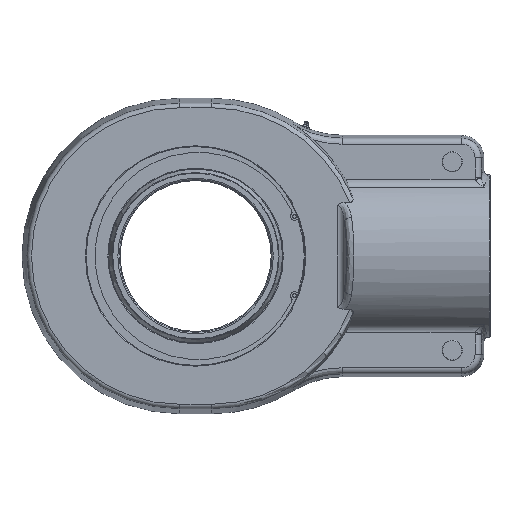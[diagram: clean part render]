
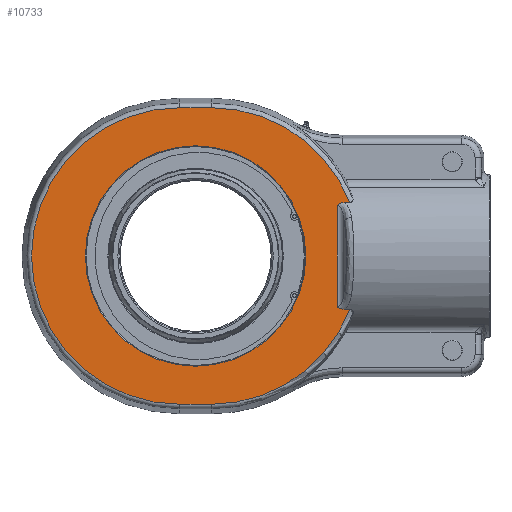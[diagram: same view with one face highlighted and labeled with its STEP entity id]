
A CAD part, left-side view. The second image highlights one B-rep face of the part: STEP entity #10733.
In plain terms, the highlighted planar face has unit normal (-1, 0, 0) as drawn and (0, 0, -1) by its records, which use the part's own axes.
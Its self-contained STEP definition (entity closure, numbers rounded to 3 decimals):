
#4135=CARTESIAN_POINT('',(-70.677,-204.259,-81.0));
#4136=VERTEX_POINT('',#4135);
#4152=CARTESIAN_POINT('',(-70.677,-196.946,-81.));
#4153=VERTEX_POINT('',#4152);
#4154=CARTESIAN_POINT('',(-70.677,-196.946,-81.));
#4155=DIRECTION('',(0.,-1.0,0.));
#4156=VECTOR('',#4155,7.313);
#4157=LINE('',#4154,#4156);
#4158=EDGE_CURVE('',#4153,#4136,#4157,.T.);
#4185=CARTESIAN_POINT('',(70.677,-196.946,-81.));
#4186=VERTEX_POINT('',#4185);
#4203=CARTESIAN_POINT('',(70.677,-204.259,-81.0));
#4204=VERTEX_POINT('',#4203);
#4205=CARTESIAN_POINT('',(70.677,-204.259,-81.0));
#4206=DIRECTION('',(0.0,1.0,0.0));
#4207=VECTOR('',#4206,7.313);
#4208=LINE('',#4205,#4207);
#4209=EDGE_CURVE('',#4204,#4186,#4208,.T.);
#4804=CARTESIAN_POINT('',(0.0,146.0,-81.));
#4805=VERTEX_POINT('',#4804);
#4806=CARTESIAN_POINT('',(0.0,0.0,-81.0));
#4807=DIRECTION('',(0.0,0.0,1.0));
#4808=DIRECTION('',(0.0,1.0,0.0));
#4809=AXIS2_PLACEMENT_3D('',#4806,#4807,#4808);
#4810=CIRCLE('',#4809,146.);
#4811=EDGE_CURVE('',#4805,#4805,#4810,.T.);
#9489=CARTESIAN_POINT('',(196.415,21.,-81.0));
#9490=VERTEX_POINT('',#9489);
#9498=CARTESIAN_POINT('',(-196.415,21.,-81.0));
#9499=VERTEX_POINT('',#9498);
#9500=CARTESIAN_POINT('',(0.,21.,-81.0));
#9501=DIRECTION('',(0.0,0.0,1.0));
#9502=DIRECTION('',(0.0,1.0,0.0));
#9503=AXIS2_PLACEMENT_3D('',#9500,#9501,#9502);
#9504=CIRCLE('',#9503,196.415);
#9505=EDGE_CURVE('',#9490,#9499,#9504,.T.);
#9524=CARTESIAN_POINT('',(196.415,-21.,-81.0));
#9525=VERTEX_POINT('',#9524);
#9533=CARTESIAN_POINT('',(196.415,-21.,-81.0));
#9534=DIRECTION('',(0.0,1.0,0.0));
#9535=VECTOR('',#9534,42.);
#9536=LINE('',#9533,#9535);
#9537=EDGE_CURVE('',#9525,#9490,#9536,.T.);
#9554=CARTESIAN_POINT('',(-196.415,-21.,-81.0));
#9555=VERTEX_POINT('',#9554);
#9572=CARTESIAN_POINT('',(-196.415,21.,-81.0));
#9573=DIRECTION('',(0.0,-1.0,0.0));
#9574=VECTOR('',#9573,42.);
#9575=LINE('',#9572,#9574);
#9576=EDGE_CURVE('',#9499,#9555,#9575,.T.);
#9587=CARTESIAN_POINT('',(0.0,-21.,-81.0));
#9588=DIRECTION('',(0.0,0.0,1.0));
#9589=DIRECTION('',(0.822,-0.57,0.0));
#9590=AXIS2_PLACEMENT_3D('',#9587,#9588,#9589);
#9591=CIRCLE('',#9590,196.415);
#9592=EDGE_CURVE('',#4204,#9525,#9591,.T.);
#9619=CARTESIAN_POINT('',(0.0,-21.,-81.0));
#9620=DIRECTION('',(0.0,0.0,1.0));
#9621=DIRECTION('',(-0.822,-0.57,0.0));
#9622=AXIS2_PLACEMENT_3D('',#9619,#9620,#9621);
#9623=CIRCLE('',#9622,196.415);
#9624=EDGE_CURVE('',#9555,#4136,#9623,.T.);
#9864=CARTESIAN_POINT('',(-66.823,-187.327,-81.0));
#9865=VERTEX_POINT('',#9864);
#9866=CARTESIAN_POINT('',(-66.823,-187.327,-81.0));
#9867=CARTESIAN_POINT('',(-66.827,-187.331,-81.0));
#9868=CARTESIAN_POINT('',(-66.832,-187.336,-81.0));
#9869=CARTESIAN_POINT('',(-67.465,-187.971,-81.0));
#9870=CARTESIAN_POINT('',(-68.021,-188.655,-81.));
#9871=CARTESIAN_POINT('',(-68.988,-190.138,-81.));
#9872=CARTESIAN_POINT('',(-69.39,-190.924,-81.));
#9873=CARTESIAN_POINT('',(-70.363,-193.399,-81.));
#9874=CARTESIAN_POINT('',(-70.677,-195.166,-81.0));
#9875=CARTESIAN_POINT('',(-70.677,-196.946,-81.0));
#9876=B_SPLINE_CURVE_WITH_KNOTS('',3,(#9866,#9867,#9868,#9869,#9870,#9871,#9872,#9873,#9874,#9875),.UNSPECIFIED.,.F.,.U.,(4,2,2,2,4),(-0.002,0.0,0.267,0.532,1.067),.UNSPECIFIED.);
#9877=EDGE_CURVE('',#4153,#9865,#9876,.F.);
#10149=CARTESIAN_POINT('',(66.823,-187.327,-81.0));
#10150=VERTEX_POINT('',#10149);
#10151=CARTESIAN_POINT('',(70.677,-196.946,-81.0));
#10152=CARTESIAN_POINT('',(70.677,-195.471,-81.0));
#10153=CARTESIAN_POINT('',(70.46,-193.998,-81.0));
#10154=CARTESIAN_POINT('',(70.016,-192.599,-81.0));
#10155=CARTESIAN_POINT('',(69.855,-192.092,-81.0));
#10156=CARTESIAN_POINT('',(69.664,-191.593,-81.0));
#10157=CARTESIAN_POINT('',(69.443,-191.107,-81.0));
#10158=CARTESIAN_POINT('',(69.367,-190.941,-81.0));
#10159=CARTESIAN_POINT('',(69.288,-190.775,-81.0));
#10160=CARTESIAN_POINT('',(69.2,-190.601,-81.0));
#10161=CARTESIAN_POINT('',(68.706,-189.629,-81.0));
#10162=CARTESIAN_POINT('',(67.976,-188.484,-81.0));
#10163=CARTESIAN_POINT('',(66.837,-187.341,-81.0));
#10164=CARTESIAN_POINT('',(66.832,-187.336,-81.));
#10165=CARTESIAN_POINT('',(66.827,-187.331,-81.0));
#10166=CARTESIAN_POINT('',(66.823,-187.327,-81.0));
#10167=B_SPLINE_CURVE_WITH_KNOTS('',3,(#10151,#10152,#10153,#10154,#10155,#10156,#10157,#10158,#10159,#10160,#10161,#10162,#10163,#10164,#10165,#10166),.UNSPECIFIED.,.F.,.U.,(4,3,3,3,3,4),(0.0,0.442,0.603,0.658,0.964,0.965),.UNSPECIFIED.);
#10168=EDGE_CURVE('',#10150,#4186,#10167,.F.);
#10221=CARTESIAN_POINT('',(-66.823,-187.327,-81.0));
#10222=DIRECTION('',(1.0,0.0,0.0));
#10223=VECTOR('',#10222,133.645);
#10224=LINE('',#10221,#10223);
#10225=EDGE_CURVE('',#9865,#10150,#10224,.T.);
#10713=CARTESIAN_POINT('',(0.,0.0,-81.0));
#10714=DIRECTION('',(0.0,0.0,1.0));
#10715=DIRECTION('',(1.0,0.0,0.0));
#10716=AXIS2_PLACEMENT_3D('',#10713,#10714,#10715);
#10717=PLANE('',#10716);
#10718=ORIENTED_EDGE('',*,*,#9592,.F.);
#10719=ORIENTED_EDGE('',*,*,#4209,.T.);
#10720=ORIENTED_EDGE('',*,*,#10168,.F.);
#10721=ORIENTED_EDGE('',*,*,#10225,.F.);
#10722=ORIENTED_EDGE('',*,*,#9877,.F.);
#10723=ORIENTED_EDGE('',*,*,#4158,.T.);
#10724=ORIENTED_EDGE('',*,*,#9624,.F.);
#10725=ORIENTED_EDGE('',*,*,#9576,.F.);
#10726=ORIENTED_EDGE('',*,*,#9505,.F.);
#10727=ORIENTED_EDGE('',*,*,#9537,.F.);
#10728=EDGE_LOOP('',(#10718,#10719,#10720,#10721,#10722,#10723,#10724,#10725,#10726,#10727));
#10729=FACE_OUTER_BOUND('',#10728,.T.);
#10730=ORIENTED_EDGE('',*,*,#4811,.T.);
#10731=EDGE_LOOP('',(#10730));
#10732=FACE_BOUND('',#10731,.T.);
#10733=ADVANCED_FACE('',(#10729,#10732),#10717,.F.);
